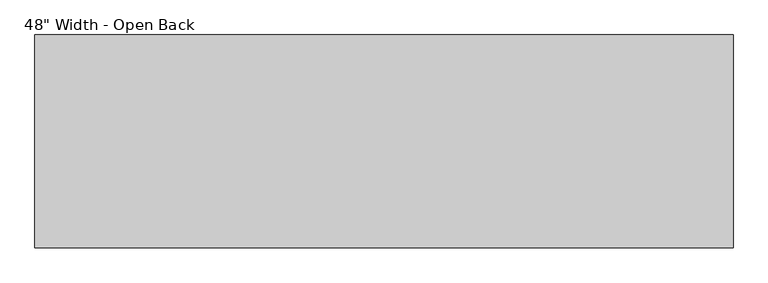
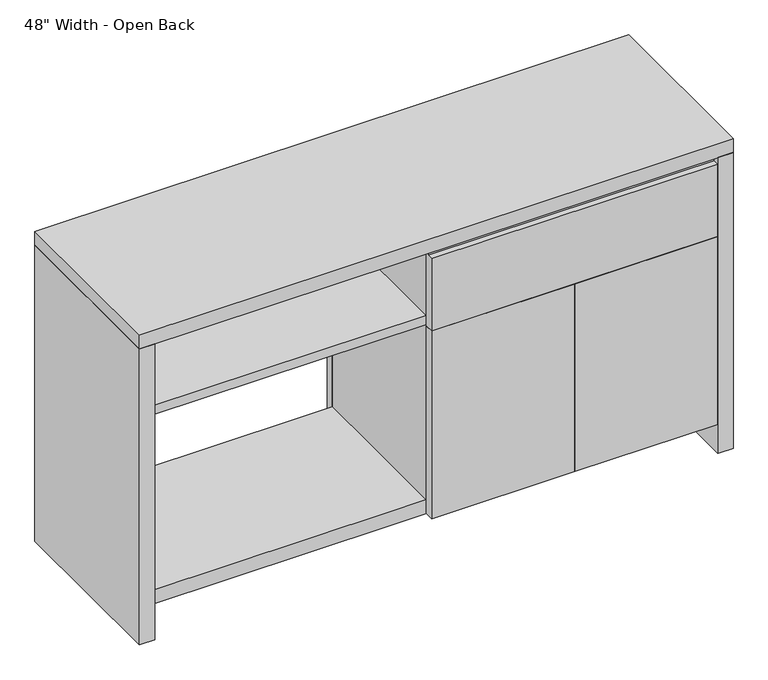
"""IFC4 building model written with IfcOpenShell, lengths in millimetres: furniture geometry."""

from ifc_helpers import new_model, si_unit, frame, origin, origin_with_axes, place, context, project, spatial, polyline, outline, extrude, source, transform, mapped, element, save


def furniture_23c05358(model_context):
    return source(origin(), model_context, "Body", "SweptSolid", [
        extrude(outline(polyline([(-9.525, -371.475), (-9.525, -352.425), (284.1625, -352.425), (284.1625, -371.475), (-9.525, -371.475)])), frame((0.0, 0.0, 63.5), z_axis=(0.0, 0.0, 1.0), x_axis=(1.0, 0.0, 0.0)), (0.0, 0.0, 1.0), 407.9875),
        extrude(outline(polyline([(577.85, -371.475), (284.1625, -371.475), (284.1625, -352.425), (577.85, -352.425), (577.85, -371.475)])), frame((0.0, 0.0, 63.5), z_axis=(0.0, 0.0, 1.0), x_axis=(1.0, 0.0, 0.0)), (0.0, 0.0, 1.0), 407.9875),
        extrude(outline(polyline([(-352.425, 471.4875), (-371.475, 471.4875), (-371.475, 628.65), (-358.775, 628.65), (-358.775, 642.9375), (-352.425, 642.9375), (-352.425, 471.4875)])), frame((-9.525, 0.0, 0.0), z_axis=(1.0, 0.0, 0.0), x_axis=(0.0, 1.0, 0.0)), (0.0, 0.0, 1.0), 587.375),
        extrude(outline(polyline([(577.85, 0.0), (577.85, -19.05), (-9.525, -19.05), (-9.525, 0.0), (577.85, 0.0)])), frame((0.0, 0.0, 63.5), z_axis=(0.0, 0.0, 1.0), x_axis=(1.0, 0.0, 0.0)), (0.0, 0.0, 1.0), 579.4375),
        extrude(outline(polyline([(642.9375, 9.525), (642.9375, -9.525), (493.7125, -9.525), (493.7125, -577.85), (474.6625, -577.85), (474.6625, -9.525), (93.6625, -9.525), (93.6625, 9.525), (474.6625, 9.525), (474.6625, 558.8), (93.6625, 558.8), (93.6625, 577.85), (642.9375, 577.85), (642.9375, 558.8), (493.7125, 558.8), (493.7125, 9.525), (642.9375, 9.525)])), frame((0.0, -352.425, 0.0), z_axis=(0.0, 1.0, 0.0), x_axis=(0.0, 0.0, 1.0)), (0.0, 0.0, 1.0), 333.375),
        extrude(outline(polyline([(-609.6, 0.0), (-577.85, 0.0), (-577.85, -371.475), (-609.6, -371.475), (-609.6, 0.0)])), origin_with_axes(), (0.0, 0.0, 1.0), 642.9375),
        extrude(outline(polyline([(609.6, -371.475), (577.85, -371.475), (577.85, 0.0), (609.6, 0.0), (609.6, -371.475)])), origin_with_axes(), (0.0, 0.0, 1.0), 642.9375),
        extrude(outline(polyline([(577.85, -19.05), (577.85, -352.425), (-577.85, -352.425), (-577.85, -19.05), (577.85, -19.05)])), frame((0.0, 0.0, 63.5), z_axis=(0.0, 0.0, 1.0), x_axis=(1.0, 0.0, 0.0)), (0.0, 0.0, 1.0), 30.1625),
        extrude(outline(polyline([(609.6, 0.0), (609.6, -371.475), (-609.6, -371.475), (-609.6, 0.0), (609.6, 0.0)])), frame((0.0, 0.0, 642.9375), z_axis=(0.0, 0.0, 1.0), x_axis=(1.0, 0.0, 0.0)), (0.0, 0.0, 1.0), 30.1625),
    ])


if __name__ == "__main__":
    model = new_model("IFC4")
    model_context = context("Model", 3, world=origin())
    ifc_project = project(units=[si_unit("LENGTHUNIT", "METRE", prefix="MILLI")], contexts=[model_context])
    site = spatial("IfcSite", under=ifc_project)
    building = spatial("IfcBuilding", under=site)
    placement = place(None, origin())
    furniture_shape = furniture_23c05358(model_context)
    element("IfcFurniture", 1, ObjectType="Haworth_XSeries-Active-Credenza : 48\" Width - Open Back", at=placement, inside=building, context=model_context, shape_type="MappedRepresentation", body=[
        mapped(furniture_shape, transform((0.0, 0.0, 0.0), x_axis=(1.0, 0.0, 0.0), y_axis=(0.0, 1.0, 0.0), z_axis=(0.0, 0.0, 1.0))),
    ])
    save(model, "model.ifc")
